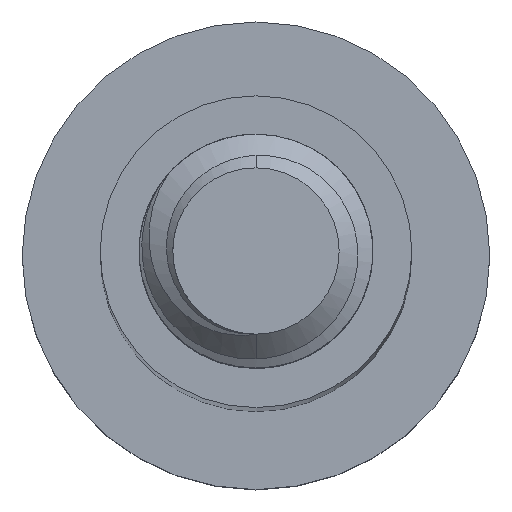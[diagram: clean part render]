
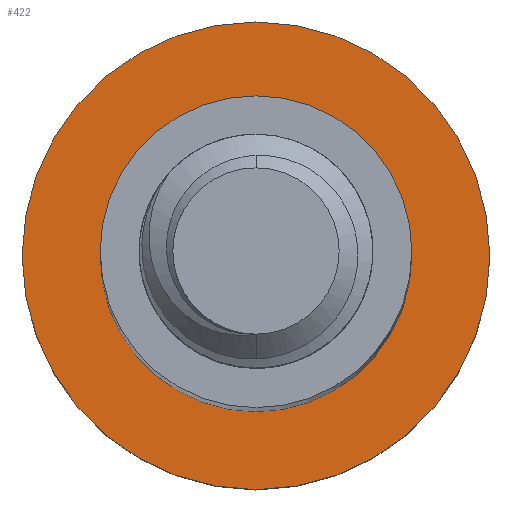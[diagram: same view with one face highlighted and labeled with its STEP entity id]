
A CAD part, top view. The second image highlights one B-rep face of the part: STEP entity #422.
In plain terms, the highlighted planar face has unit normal (0, 0, 1).
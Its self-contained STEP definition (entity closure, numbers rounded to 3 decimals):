
#170 = ORIENTED_EDGE ( 'NONE', *, *, #3726, .T. ) ;
#422 = ADVANCED_FACE ( 'NONE', ( #2543, #984 ), #1928, .F. ) ;
#528 = DIRECTION ( 'NONE',  ( -1., 0., 0. ) ) ;
#585 = CIRCLE ( 'NONE', #1891, 6. ) ;
#689 = CARTESIAN_POINT ( 'NONE',  ( -6., 0., -60. ) ) ;
#815 = CARTESIAN_POINT ( 'NONE',  ( 0., 0., -60. ) ) ;
#835 = DIRECTION ( 'NONE',  ( 0., 0., -1. ) ) ;
#934 = DIRECTION ( 'NONE',  ( -1., 0., 0. ) ) ;
#953 = ORIENTED_EDGE ( 'NONE', *, *, #1274, .T. ) ;
#984 = FACE_OUTER_BOUND ( 'NONE', #1540, .T. ) ;
#1132 = EDGE_LOOP ( 'NONE', ( #170, #953 ) ) ;
#1211 = CIRCLE ( 'NONE', #2045, 6. ) ;
#1274 = EDGE_CURVE ( 'NONE', #3171, #2660, #3825, .T. ) ;
#1387 = DIRECTION ( 'NONE',  ( -1., 0., 0. ) ) ;
#1540 = EDGE_LOOP ( 'NONE', ( #3414, #1971 ) ) ;
#1571 = DIRECTION ( 'NONE',  ( 0., 0., -1. ) ) ;
#1696 = EDGE_CURVE ( 'NONE', #2357, #2444, #585, .T. ) ;
#1724 = CARTESIAN_POINT ( 'NONE',  ( 0., 0., -60. ) ) ;
#1762 = DIRECTION ( 'NONE',  ( -1., 0., 0. ) ) ;
#1888 = AXIS2_PLACEMENT_3D ( 'NONE', #3286, #1571, #2600 ) ;
#1891 = AXIS2_PLACEMENT_3D ( 'NONE', #815, #4088, #1762 ) ;
#1928 = PLANE ( 'NONE',  #1888 ) ;
#1971 = ORIENTED_EDGE ( 'NONE', *, *, #1696, .F. ) ;
#1984 = CARTESIAN_POINT ( 'NONE',  ( -4., 0., -60. ) ) ;
#2045 = AXIS2_PLACEMENT_3D ( 'NONE', #4015, #835, #528 ) ;
#2077 = CARTESIAN_POINT ( 'NONE',  ( 0., 0., -60. ) ) ;
#2307 = AXIS2_PLACEMENT_3D ( 'NONE', #1724, #2700, #1387 ) ;
#2357 = VERTEX_POINT ( 'NONE', #689 ) ;
#2444 = VERTEX_POINT ( 'NONE', #4014 ) ;
#2543 = FACE_BOUND ( 'NONE', #1132, .T. ) ;
#2600 = DIRECTION ( 'NONE',  ( -1., 0., 0. ) ) ;
#2660 = VERTEX_POINT ( 'NONE', #1984 ) ;
#2700 = DIRECTION ( 'NONE',  ( 0., 0., -1. ) ) ;
#2731 = CIRCLE ( 'NONE', #3340, 4. ) ;
#2919 = DIRECTION ( 'NONE',  ( 0., 0., -1. ) ) ;
#3171 = VERTEX_POINT ( 'NONE', #3333 ) ;
#3186 = EDGE_CURVE ( 'NONE', #2444, #2357, #1211, .T. ) ;
#3286 = CARTESIAN_POINT ( 'NONE',  ( 0., 0., -60. ) ) ;
#3333 = CARTESIAN_POINT ( 'NONE',  ( 4., 0., -60. ) ) ;
#3340 = AXIS2_PLACEMENT_3D ( 'NONE', #2077, #2919, #934 ) ;
#3414 = ORIENTED_EDGE ( 'NONE', *, *, #3186, .F. ) ;
#3726 = EDGE_CURVE ( 'NONE', #2660, #3171, #2731, .T. ) ;
#3825 = CIRCLE ( 'NONE', #2307, 4. ) ;
#4014 = CARTESIAN_POINT ( 'NONE',  ( 6., 0., -60. ) ) ;
#4015 = CARTESIAN_POINT ( 'NONE',  ( 0., 0., -60. ) ) ;
#4088 = DIRECTION ( 'NONE',  ( 0., 0., -1. ) ) ;
